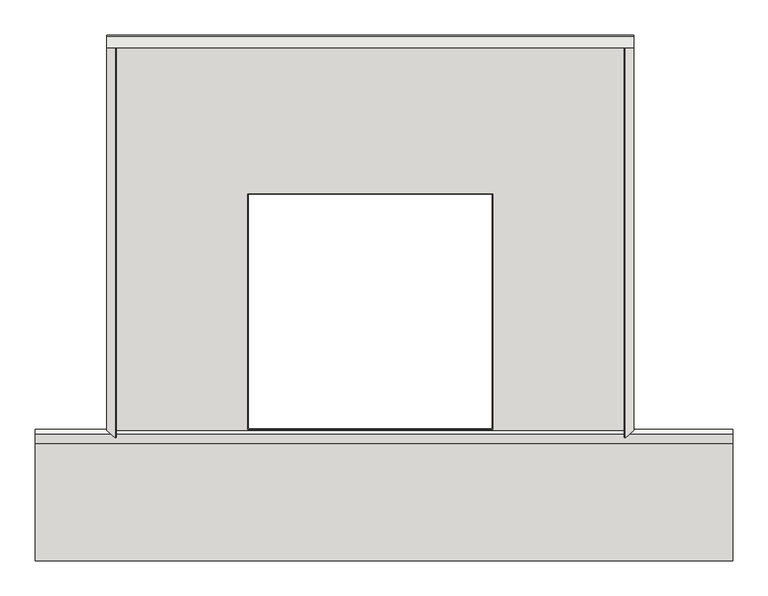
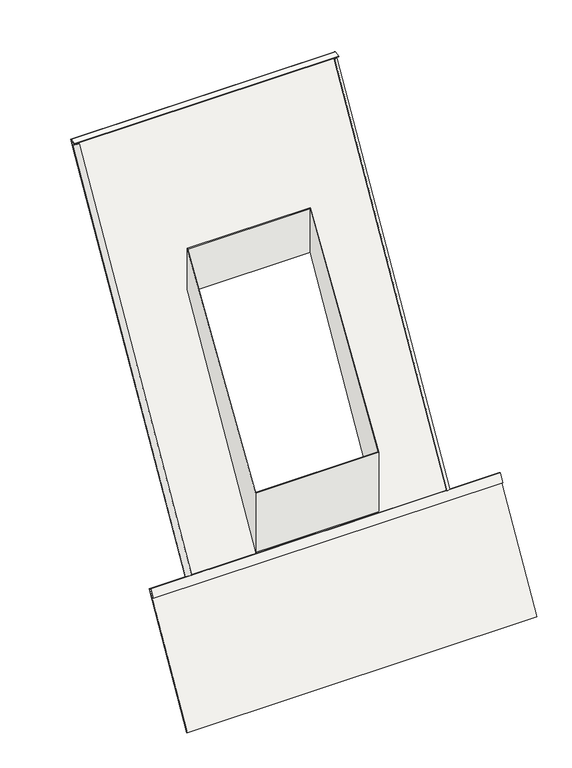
"""IFC4 building model written with IfcOpenShell, lengths in millimetres: covering geometry, DERS_420_AM_AEB_Mini Delta_concealedgutter_M&G : concealedgutter Mini-Delta."""

from ifc_helpers import new_model, si_unit, frame, origin, place, context, project, spatial, polyline, outline, extrude, faceted_brep, source, transform, mapped, element, save


def covering_70f84291(model_context):
    return source(origin(), model_context, "Body", "SolidModel", [
        faceted_brep([(-300.991448, -126.991448, 182.0574042), (-300.991448, -126.991448, 2.251666), (-300.991448, 205.008552, 577.2925342), (-300.991448, 205.008552, 707.486796), (44.408552, -126.991448, 182.0574042), (44.408552, -126.991448, 2.251666), (44.408552, 205.008552, 707.486796), (44.408552, 205.008552, 577.2925342), (-302.291448, 206.308552, 709.5442002), (-302.291448, 206.308552, 579.5442002), (-302.291448, -128.291448, 0.0), (-302.291448, -128.291448, 180.0), (45.708552, -128.291448, 0.0), (45.708552, -128.291448, 180.0), (45.708552, 206.308552, 579.5442002), (45.708552, 206.308552, 709.5442002)], [[[0, 1, 2, 3]], [[1, 0, 4, 5]], [[5, 4, 6, 7]], [[7, 6, 3, 2]], [[8, 9, 10, 11]], [[11, 10, 12, 13]], [[13, 12, 14, 15]], [[9, 8, 15, 14]], [[10, 9, 14, 12], [2, 1, 5, 7]], [[8, 11, 13, 15], [0, 3, 6, 4]]]),
        faceted_brep([(-502.291448, -129.8502937, 0.9), (-502.291448, -128.291448, 0.0), (245.708552, -128.291448, 0.0), (245.708552, -129.8502937, 0.9), (233.6877368, -140.2606251, 6.9104076), (232.4149445, -139.1583547, 6.2740115), (243.1629676, -129.8502937, 0.9), (-499.7458636, -129.8502937, 0.9), (-488.9978405, -139.1583547, 6.2740115), (-490.2706327, -140.2606251, 6.9104076), (245.708552, 430.1497063, 970.8484522), (245.708552, 431.708552, 969.9484522), (-502.291448, 431.708552, 969.9484522), (-502.291448, 430.1497063, 970.8484522), (243.1629676, 422.6497063, 957.8580712), (245.708552, 422.6497063, 957.8580712), (245.708552, 428.8769141, 968.6439115), (-502.291448, 428.8769141, 968.6439115), (-502.291448, 422.6497063, 957.8580712), (-499.7458636, 422.6497063, 957.8580712), (44.408552, -126.991448, 5.851666), (-300.991448, -126.991448, 5.851666), (-300.991448, 205.008552, 580.8925342), (44.408552, 205.008552, 580.8925342), (-502.291448, 424.208552, 956.9580712), (-300.991448, -126.991448, 2.251666), (44.408552, -126.991448, 2.251666), (44.408552, 205.008552, 577.2925342), (-300.991448, 205.008552, 577.2925342), (-502.291448, 414.1948415, 964.709862), (-502.291448, 413.7289673, 966.4485285), (245.708552, 413.7289673, 966.4485285), (245.708552, 414.1948415, 964.709862), (232.4149445, 413.3416453, 963.2320827), (233.6877368, 412.2393749, 963.8684788), (-490.2706327, 412.2393749, 963.8684788), (-488.9978405, 413.3416453, 963.2320827)], [[[0, 1, 2, 3, 4, 5, 6, 7, 8, 9]], [[10, 11, 12, 13]], [[14, 15, 16, 17, 18, 19, 7, 6], [20, 21, 22, 23]], [[12, 11, 2, 1, 24], [25, 26, 27, 28]], [[1, 0, 18, 17, 29, 30, 13, 12, 24]], [[3, 2, 11, 10, 31, 32, 16, 15]], [[25, 21, 20, 26]], [[26, 20, 23, 27]], [[27, 23, 22, 28]], [[21, 25, 28, 22]], [[31, 10, 13, 30]], [[32, 31, 30, 29]], [[32, 29, 17, 16]], [[33, 34, 15, 14]], [[4, 3, 15, 34]], [[5, 4, 34, 33]], [[5, 33, 14, 6]], [[18, 35, 36, 19]], [[0, 9, 35, 18]], [[9, 8, 36, 35]], [[36, 8, 7, 19]]]),
        extrude(outline(polyline([(-146.1608055, -18.5506351), (-147.7196512, -17.6506351), (-135.2196512, 4.0), (-128.291448, 0.0), (-312.791448, -319.563374), (-314.3502937, -318.663374), (-130.7502937, -0.6588457), (-134.5608055, 1.5411543), (-146.1608055, -18.5506351)])), frame((-603.8654275, 0.0, 0.0), z_axis=(1.0, 0.0, 0.0), x_axis=(0.0, 1.0, 0.0)), (0.0, 0.0, 1.0), 990.0739795),
    ])


if __name__ == "__main__":
    model = new_model("IFC4")
    model_context = context("Model", 3, world=origin())
    ifc_project = project(units=[si_unit("LENGTHUNIT", "METRE", prefix="MILLI")], contexts=[model_context])
    site = spatial("IfcSite", under=ifc_project)
    building = spatial("IfcBuilding", under=site)
    placement = place(None, origin())
    covering_shape = covering_70f84291(model_context)
    element("IfcCovering", 1, ObjectType="DERS_420_AM_AEB_Mini Delta_concealedgutter_M&G : concealedgutter Mini-Delta", at=placement, inside=building, context=model_context, shape_type="MappedRepresentation", body=[
        mapped(covering_shape, transform((0.0, 0.0, 0.0), x_axis=(1.0, 0.0, 0.0), y_axis=(0.0, 1.0, 0.0), z_axis=(0.0, 0.0, 1.0))),
    ])
    save(model, "model.ifc")
